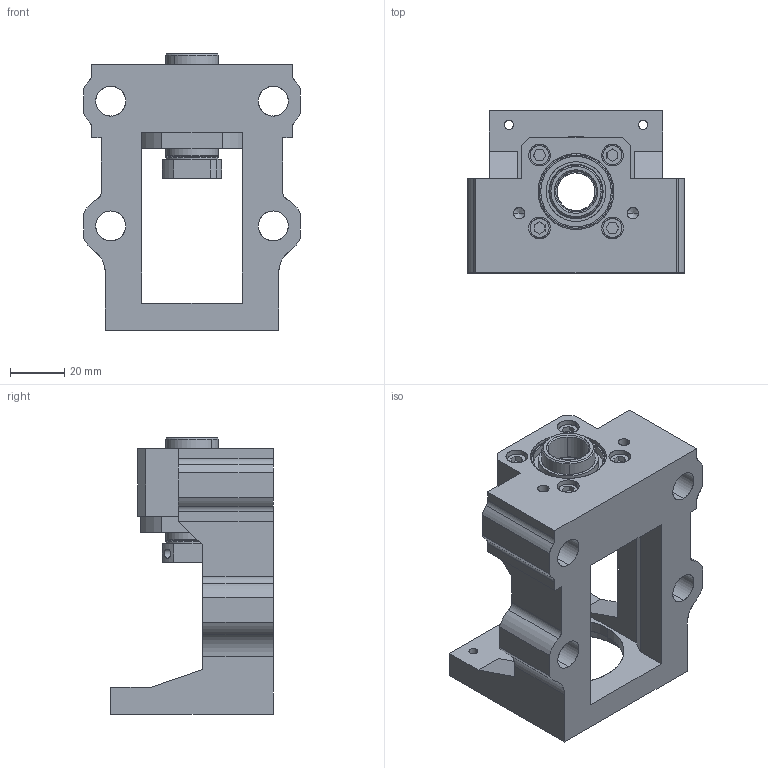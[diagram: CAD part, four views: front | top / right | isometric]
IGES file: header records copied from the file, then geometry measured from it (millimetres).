
Start section: SolidWorks IGES file using analytic representation for surfaces
Global section: file name: C:\Users\117\Desktop\MBCE15-DP.IGS; native system: SolidWorks 2018; preprocessor: SolidWorks 2018; author: 117; date: 230112.101601; units: millimetre
Bounding box: 80 x 60 x 102 mm (x, y, z)
Surface area: 63566.3 mm2 (no closed solid volume)
Topology: 0 solids, 0 shells, 556 faces, 10200 edges, 10120 vertices
Faces by surface type: revolution 324, bspline 232
